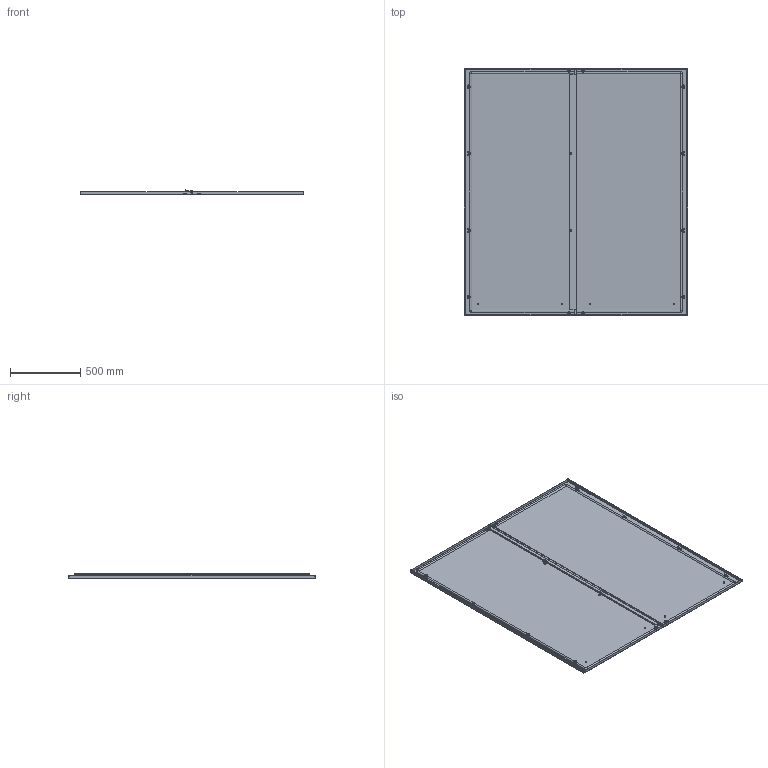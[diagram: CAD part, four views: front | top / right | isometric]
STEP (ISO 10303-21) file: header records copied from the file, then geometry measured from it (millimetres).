
FILE_DESCRIPTION(('Open CASCADE Model'),'2;1');
FILE_NAME('Open CASCADE Shape Model','2025-02-10T17:36:37',('Author'),( 'Open CASCADE'),'Open CASCADE STEP processor 7.8','Open CASCADE 7.8' ,'Unknown');
FILE_SCHEMA(('AUTOMOTIVE_DESIGN { 1 0 10303 214 1 1 1 1 }'));
Length unit declared in the file: millimetre
Products named in the file (19): Compound1; Compound2; Compound3; Solid1; Solid2; Solid3; Compound4; Compound5; Solid4; Compound6; Solid5; Solid6; Solid7; Solid8; Solid9; Solid10; Solid11; Solid12; Solid13
Assembly tree (67 placements, depth 4):
  Compound1
    Compound2
      Compound3
        Solid1
        Solid2  x3
      Solid3
    Compound4
      Compound5
        Solid4
        Solid2  x3
      Solid3
    Compound6  x2
      Solid5
      Solid6
    Solid7
    Solid8  x14
    Solid9  x2
    Solid10  x2
    Solid11  x12
    Solid12  x6
    Solid13  x12
Bounding box: 1594 x 1755 x 36.26 mm (x, y, z)
Volume: 5456193.3 mm3; surface area: 6649374.3 mm2
Topology: 63 solids, 63 shells, 1828 faces, 4488 edges, 2810 vertices
Faces by surface type: plane 1351, cylinder 237, cone 164, torus 46, bspline 28, revolution 2
Full cylindrical faces by diameter (mm): 4.92 x14, 5 x26, 6 x36, 6.5 x2, 7.5 x8, 8 x24, 9 x4, 9.1 x2, 10 x16, 11.57 x14
Entity records: 13674 total; most frequent: CARTESIAN_POINT 2779, DIRECTION 2150, ORIENTED_EDGE 2146, EDGE_CURVE 1073, LINE 763, VECTOR 763, AXIS2_PLACEMENT_3D 693, VERTEX_POINT 673
